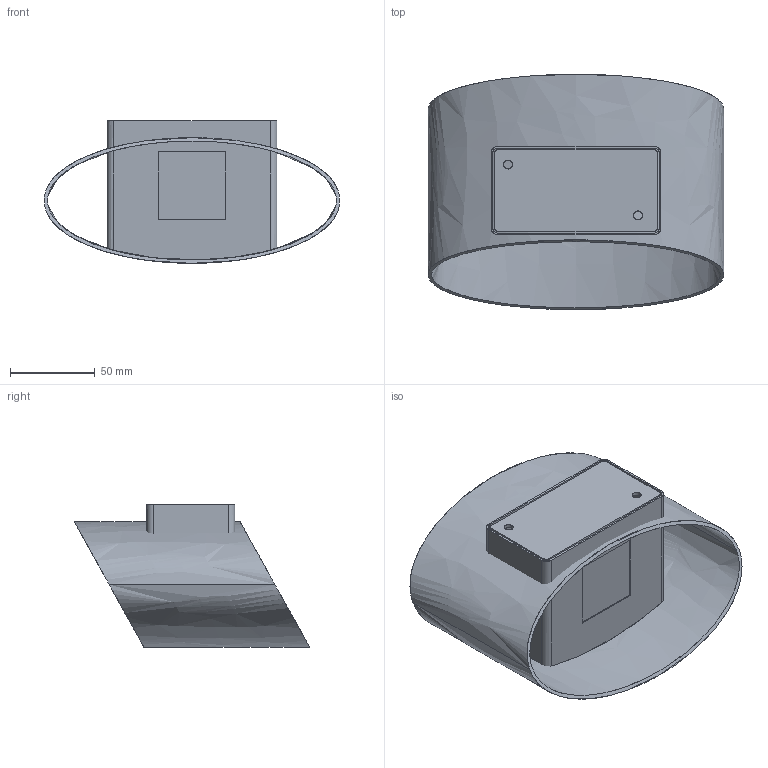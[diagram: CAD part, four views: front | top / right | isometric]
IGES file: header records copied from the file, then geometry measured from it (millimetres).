
Start section: SolidWorks IGES file using analytic representation for surfaces
Global section: file name: Z:\Modele 3D_WWW\_KOLEKCJE_WWW\ELLIPSES-LED-8140-8182-8181\ELLIPSES-LED-8140-8182-8181.IGS; native system: SolidWorks 2020; preprocessor: SolidWorks 2020; author: gabriela.tworek; date: 210401.173506; units: millimetre
Bounding box: 174 x 138.5 x 84 mm (x, y, z)
Surface area: 136436 mm2 (no closed solid volume)
Topology: 0 solids, 0 shells, 48 faces, 1086 edges, 1086 vertices
Faces by surface type: bspline 32, revolution 16
